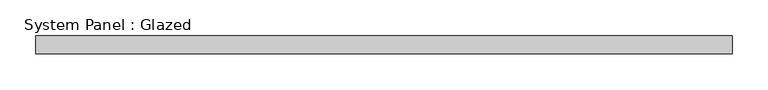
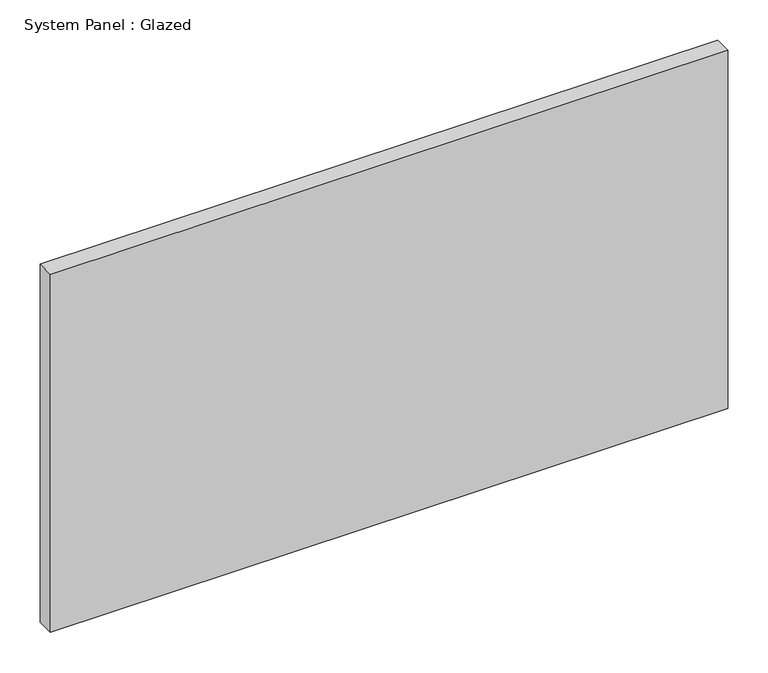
"""IFC4 building model written with IfcOpenShell, lengths in millimetres: plate geometry, System Panel : Glazed."""

from ifc_helpers import new_model, si_unit, origin, origin_with_axes, place, context, project, spatial, polyline, outline, extrude, source, transform, mapped, element, save


def system_panel_glazed_24203404(model_context):
    return source(origin(), model_context, "Body", "SweptSolid", [
        extrude(outline(polyline([(488.4208333, -44.45), (-488.4208333, -44.45), (-488.4208333, -19.05), (488.4208333, -19.05), (488.4208333, -44.45)])), origin_with_axes(), (0.0, 0.0, 1.0), 546.1),
    ])


if __name__ == "__main__":
    model = new_model("IFC4")
    model_context = context("Model", 3, world=origin())
    ifc_project = project(units=[si_unit("LENGTHUNIT", "METRE", prefix="MILLI")], contexts=[model_context])
    site = spatial("IfcSite", under=ifc_project)
    building = spatial("IfcBuilding", under=site)
    placement = place(None, origin())
    system_panel_glazed_shape = system_panel_glazed_24203404(model_context)
    element("IfcPlate", 1, ObjectType="System Panel : Glazed", at=placement, inside=building, context=model_context, shape_type="MappedRepresentation", body=[
        mapped(system_panel_glazed_shape, transform((0.0, 0.0, 0.0), x_axis=(1.0, 0.0, 0.0), y_axis=(0.0, 1.0, 0.0), z_axis=(0.0, 0.0, 1.0))),
    ])
    save(model, "model.ifc")
